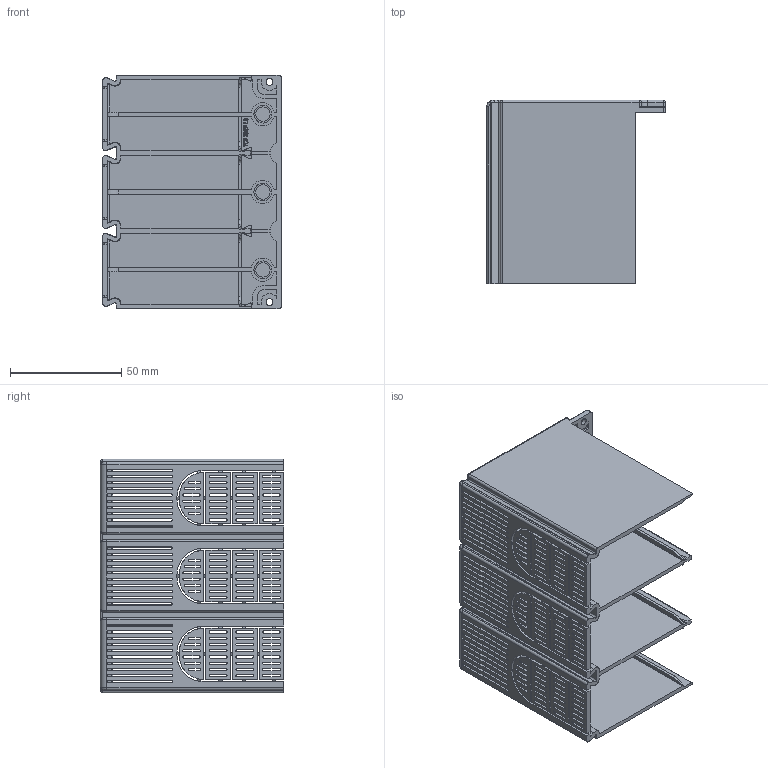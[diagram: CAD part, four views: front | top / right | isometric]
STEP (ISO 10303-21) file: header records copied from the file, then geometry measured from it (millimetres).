
FILE_DESCRIPTION((''),'2;1');
FILE_NAME('U2_3P_LONG_TERMINAL_COVER','2018-06-04T',('HHI'),(''),'PRO/ENGINEER BY PARAMETRIC TECHNOLOGY CORPORATION, 2012453','PRO/ENGINEER BY PARAMETRIC TECHNOLOGY CORPORATION, 2012453','');
FILE_SCHEMA(('CONFIG_CONTROL_DESIGN'));
Length unit declared in the file: millimetre
Products named in the file (1): U2_3P_LONG_TERMINAL_COVER
Bounding box: 80.3 x 82.5 x 105 mm (x, y, z)
Volume: 77697.9 mm3; surface area: 88843.3 mm2
Topology: 1 solids, 1 shells, 1380 faces, 4054 edges, 2616 vertices
Faces by surface type: plane 670, cylinder 469, extrusion 101, torus 58, bspline 44, cone 26, sphere 12
Entity records: 48524 total; most frequent: CARTESIAN_POINT 11187, ORIENTED_EDGE 8108, DIRECTION 7375, EDGE_CURVE 4054, VECTOR 2711, VERTEX_POINT 2616, LINE 2610, AXIS2_PLACEMENT_3D 2332
